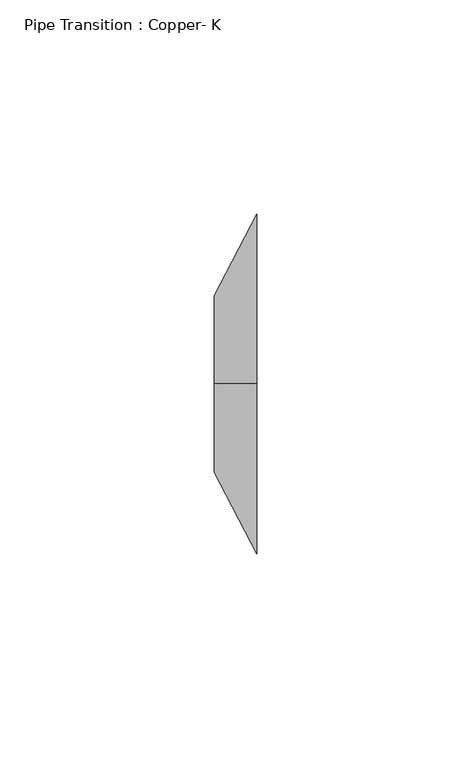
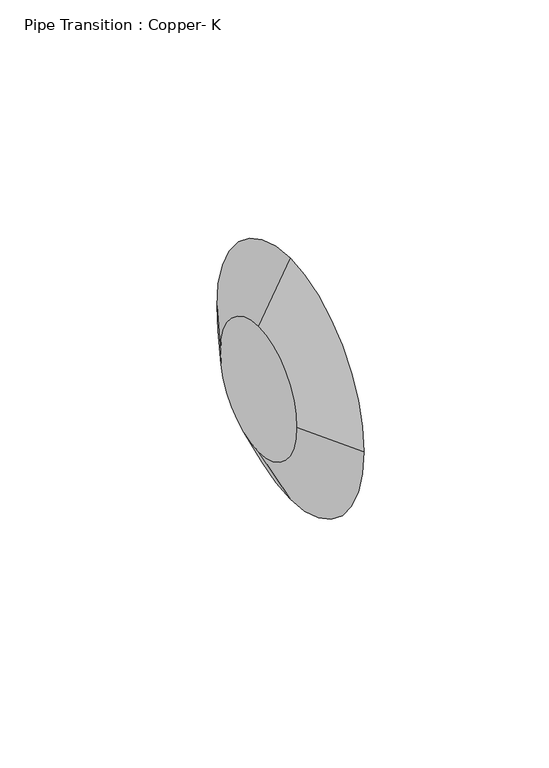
"""IFC4 building model written with IfcOpenShell, lengths in millimetres: pipe fitting geometry, Pipe Transition : Copper- K."""

from ifc_helpers import new_model, si_unit, frame, origin, place, context, project, spatial, polyline, circle_curve, source, transform, mapped, element, save
from ifc_brep_helpers import plane_surface, revolved_surface, advanced_brep


def pipe_transition_copper_k_cf4cad15(model_context):
    return source(origin(), model_context, "Body", "AdvancedBrep", [
        advanced_brep(
        [(9.921875, 0.0, 39.6875), (9.921875, -39.6875, 0.0), (9.921875, 0.0, -39.6875), (9.921875, 39.6875, 0.0), (0.0, 0.0, 20.6375), (0.0, 20.6375, 0.0), (0.0, 0.0, -20.6375), (0.0, -20.6375, 0.0)],
        [
            (0, 1, circle_curve(frame((9.921875, 0.0, 0.0), z_axis=(1.0, 0.0, 0.0), x_axis=(0.0, 0.0, 1.0)), 39.6875)),
            (1, 2, circle_curve(frame((9.921875, 0.0, 0.0), z_axis=(1.0, 0.0, 0.0), x_axis=(0.0, -1.0, 0.0)), 39.6875)),
            (2, 3, circle_curve(frame((9.921875, 0.0, 0.0), z_axis=(1.0, 0.0, 0.0), x_axis=(0.0, 0.0, -1.0)), 39.6875)),
            (3, 0, circle_curve(frame((9.921875, 0.0, 0.0), z_axis=(1.0, 0.0, 0.0), x_axis=(0.0, 1.0, 0.0)), 39.6875)),
            (4, 5, circle_curve(frame((0.0, 0.0, 0.0), z_axis=(-1.0, 0.0, 0.0), x_axis=(0.0, 1.0, 0.0)), 20.6375)),
            (5, 6, circle_curve(frame((0.0, 0.0, 0.0), z_axis=(-1.0, 0.0, 0.0), x_axis=(0.0, 0.0, -1.0)), 20.6375)),
            (6, 7, circle_curve(frame((0.0, 0.0, 0.0), z_axis=(-1.0, 0.0, 0.0), x_axis=(0.0, -1.0, 0.0)), 20.6375)),
            (7, 4, circle_curve(frame((0.0, 0.0, 0.0), z_axis=(-1.0, 0.0, 0.0), x_axis=(0.0, 0.0, 1.0)), 20.6375)),
            (7, 1),
            (0, 4),
            (6, 2),
            (5, 3),
        ],
        [
            plane_surface(frame((9.921875, 0.0, 0.0), z_axis=(1.0, 0.0, 0.0), x_axis=(0.0, -1.0, 0.0))),
            plane_surface(frame((0.0, 0.0, 0.0), z_axis=(-1.0, 0.0, 0.0), x_axis=(0.0, -1.0, 0.0))),
            revolved_surface(polyline([(0.0, -20.63749998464, 0.0), (9.921875, -39.6875, 0.0)]), (-10.7486979, 0.0, 0.0), (1.0, 0.0, 0.0)),
            revolved_surface(polyline([(0.0, 0.0, -20.63749998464), (9.921875, 0.0, -39.6875)]), (-10.7486979, 0.0, 0.0), (1.0, 0.0, 0.0)),
            revolved_surface(polyline([(0.0, 20.63749998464, 0.0), (9.921875, 39.6875, 0.0)]), (-10.7486979, 0.0, 0.0), (1.0, 0.0, 0.0)),
            revolved_surface(polyline([(0.0, 0.0, 20.63749998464), (9.921875, 0.0, 39.6875)]), (-10.7486979, 0.0, 0.0), (1.0, 0.0, 0.0)),
        ],
        [
            (0, [[1, 2, 3, 4]]),
            (1, [[5, 6, 7, 8]]),
            (2, [[-8, 9, -1, 10]]),
            (3, [[-7, 11, -2, -9]]),
            (4, [[-6, 12, -3, -11]]),
            (5, [[-5, -10, -4, -12]]),
        ],
    ),
        advanced_brep(
        [(9.921875, 0.0, 39.6875), (9.921875, -39.6875, 0.0), (9.921875, 0.0, -39.6875), (9.921875, 39.6875, 0.0), (0.0, 0.0, 20.6375), (0.0, 20.6375, 0.0), (0.0, 0.0, -20.6375), (0.0, -20.6375, 0.0)],
        [
            (0, 1, circle_curve(frame((9.921875, 0.0, 0.0), z_axis=(1.0, 0.0, 0.0), x_axis=(0.0, 0.0, 1.0)), 39.6875)),
            (1, 2, circle_curve(frame((9.921875, 0.0, 0.0), z_axis=(1.0, 0.0, 0.0), x_axis=(0.0, -1.0, 0.0)), 39.6875)),
            (2, 3, circle_curve(frame((9.921875, 0.0, 0.0), z_axis=(1.0, 0.0, -1.3192778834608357e-12), x_axis=(-1.319252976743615e-12, 0.0, -1.0)), 39.6875)),
            (3, 0, circle_curve(frame((9.921875, 0.0, 0.0), z_axis=(1.0, 0.0, 0.0), x_axis=(0.0, 1.0, 0.0)), 39.6875)),
            (4, 5, circle_curve(frame((0.0, 0.0, 0.0), z_axis=(-1.0, 0.0, 0.0), x_axis=(0.0, 1.0, 0.0)), 20.6375)),
            (5, 6, circle_curve(frame((0.0, 0.0, 0.0), z_axis=(-1.0, 0.0, 1.3192778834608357e-12), x_axis=(-1.319252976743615e-12, 0.0, -1.0)), 20.6375)),
            (6, 7, circle_curve(frame((0.0, 0.0, 0.0), z_axis=(-1.0, 0.0, 0.0), x_axis=(0.0, -1.0, 0.0)), 20.6375)),
            (7, 4, circle_curve(frame((0.0, 0.0, 0.0), z_axis=(-1.0, 0.0, 0.0), x_axis=(0.0, 0.0, 1.0)), 20.6375)),
            (7, 1),
            (0, 4),
            (6, 2),
            (5, 3),
        ],
        [
            plane_surface(frame((9.921875, 0.0, 0.0), z_axis=(1.0, 0.0, 0.0), x_axis=(0.0, -1.0, 0.0))),
            plane_surface(frame((0.0, 0.0, 0.0), z_axis=(-1.0, 0.0, 0.0), x_axis=(0.0, -1.0, 0.0))),
            revolved_surface(polyline([(0.0, -20.63749998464, 0.0), (9.921875, -39.6875, 0.0)]), (-10.7486979, 0.0, 0.0), (1.0, 0.0, 0.0)),
            revolved_surface(polyline([(0.0, 0.0, -20.63749998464), (9.921875, 0.0, -39.6875)]), (-10.7486979, 0.0, 0.0), (1.0, 0.0, 0.0)),
            revolved_surface(polyline([(0.0, 20.63749998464, 0.0), (9.92187500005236, 39.687500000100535, 0.0)]), (-10.7486979, 0.0, 0.0), (1.0, 0.0, -1.3192778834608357e-12)),
            revolved_surface(polyline([(0.0, 0.0, 20.63749998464), (9.921875, 0.0, 39.6875)]), (-10.7486979, 0.0, 0.0), (1.0, 0.0, 0.0)),
        ],
        [
            (0, [[1, 2, 3, 4]]),
            (1, [[5, 6, 7, 8]]),
            (2, [[-8, 9, -1, 10]]),
            (3, [[-7, 11, -2, -9]]),
            (4, [[-6, 12, -3, -11]]),
            (5, [[-5, -10, -4, -12]]),
        ],
    ),
    ])


if __name__ == "__main__":
    model = new_model("IFC4")
    model_context = context("Model", 3, world=origin())
    ifc_project = project(units=[si_unit("LENGTHUNIT", "METRE", prefix="MILLI")], contexts=[model_context])
    site = spatial("IfcSite", under=ifc_project)
    building = spatial("IfcBuilding", under=site)
    placement = place(None, origin())
    pipe_transition_copper_k_shape = pipe_transition_copper_k_cf4cad15(model_context)
    element("IfcPipeFitting", 1, ObjectType="Pipe Transition : Copper- K", at=placement, inside=building, context=model_context, shape_type="MappedRepresentation", body=[
        mapped(pipe_transition_copper_k_shape, transform((0.0, 0.0, 0.0), x_axis=(1.0, 0.0, 0.0), y_axis=(0.0, 1.0, 0.0), z_axis=(0.0, 0.0, 1.0))),
    ])
    save(model, "model.ifc")
